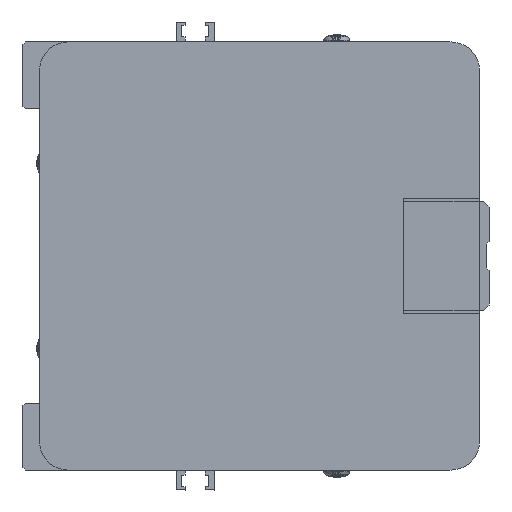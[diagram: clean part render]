
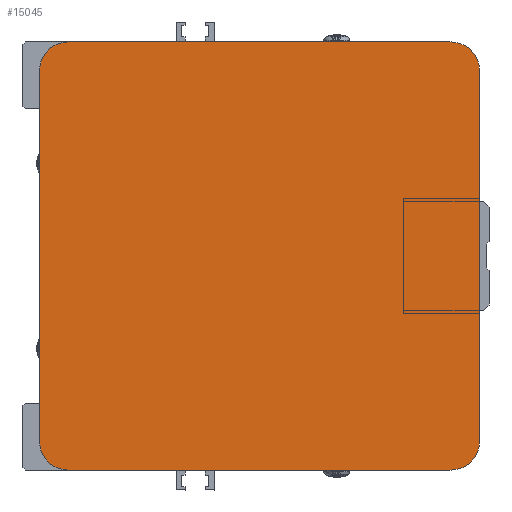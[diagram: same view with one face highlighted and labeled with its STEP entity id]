
A CAD part, left-side view. The second image highlights one B-rep face of the part: STEP entity #15045.
In plain terms, the highlighted planar face has unit normal (-1, 0, 0) as drawn and (0, 0, -1) by its records, which use the part's own axes.
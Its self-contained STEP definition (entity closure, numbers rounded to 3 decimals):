
#1189=CIRCLE('',#16041,6.);
#1191=CIRCLE('',#16046,6.);
#1192=CIRCLE('',#16052,6.);
#1193=CIRCLE('',#16054,6.);
#2094=FACE_OUTER_BOUND('',#2987,.T.);
#2987=EDGE_LOOP('',(#10521,#10522,#10523,#10524,#10525,#10526,#10527,#10528));
#4125=LINE('',#21566,#5370);
#4143=LINE('',#21605,#5388);
#4147=LINE('',#21617,#5392);
#4149=LINE('',#21624,#5394);
#5370=VECTOR('',#17629,78.);
#5388=VECTOR('',#17663,80.5);
#5392=VECTOR('',#17677,80.5);
#5394=VECTOR('',#17685,78.);
#6610=VERTEX_POINT('',#21560);
#6611=VERTEX_POINT('',#21564);
#6623=VERTEX_POINT('',#21602);
#6624=VERTEX_POINT('',#21604);
#6626=VERTEX_POINT('',#21613);
#6627=VERTEX_POINT('',#21615);
#6628=VERTEX_POINT('',#21619);
#6629=VERTEX_POINT('',#21623);
#8148=EDGE_CURVE('',#6611,#6610,#4125,.T.);
#8168=EDGE_CURVE('',#6623,#6624,#4143,.T.);
#8170=EDGE_CURVE('',#6624,#6611,#1189,.T.);
#8174=EDGE_CURVE('',#6627,#6626,#4147,.T.);
#8175=EDGE_CURVE('',#6626,#6628,#1191,.T.);
#8177=EDGE_CURVE('',#6628,#6629,#4149,.T.);
#8193=EDGE_CURVE('',#6629,#6623,#1192,.T.);
#8194=EDGE_CURVE('',#6610,#6627,#1193,.T.);
#10521=ORIENTED_EDGE('',*,*,#8175,.F.);
#10522=ORIENTED_EDGE('',*,*,#8174,.F.);
#10523=ORIENTED_EDGE('',*,*,#8194,.F.);
#10524=ORIENTED_EDGE('',*,*,#8148,.F.);
#10525=ORIENTED_EDGE('',*,*,#8170,.F.);
#10526=ORIENTED_EDGE('',*,*,#8168,.F.);
#10527=ORIENTED_EDGE('',*,*,#8193,.F.);
#10528=ORIENTED_EDGE('',*,*,#8177,.F.);
#14520=PLANE('',#16065);
#15045=ADVANCED_FACE('',(#2094),#14520,.T.);
#16041=AXIS2_PLACEMENT_3D('',#21608,#17667,#17668);
#16046=AXIS2_PLACEMENT_3D('',#21620,#17680,#17681);
#16052=AXIS2_PLACEMENT_3D('',#21652,#17709,#17710);
#16054=AXIS2_PLACEMENT_3D('',#21654,#17713,#17714);
#16065=AXIS2_PLACEMENT_3D('',#21673,#17740,#17741);
#17629=DIRECTION('',(1.,0.,0.));
#17663=DIRECTION('',(0.,-1.,0.));
#17667=DIRECTION('center_axis',(0.,0.,
1.));
#17668=DIRECTION('ref_axis',(-1.,0.,0.));
#17677=DIRECTION('',(0.,1.,0.));
#17680=DIRECTION('center_axis',(0.,0.,
1.));
#17681=DIRECTION('ref_axis',(1.,0.,0.));
#17685=DIRECTION('',(-1.,0.,0.));
#17709=DIRECTION('center_axis',(0.,0.,
1.));
#17710=DIRECTION('ref_axis',(0.,1.,0.));
#17713=DIRECTION('center_axis',(0.,0.,
1.));
#17714=DIRECTION('ref_axis',(0.,-1.,0.));
#17740=DIRECTION('center_axis',(0.,0.,
-1.));
#17741=DIRECTION('ref_axis',(0.545,-0.839,0.));
#21560=CARTESIAN_POINT('',(88.204,2.,-636.));
#21564=CARTESIAN_POINT('',(10.204,2.,-636.));
#21566=CARTESIAN_POINT('',(10.204,2.,-636.));
#21602=CARTESIAN_POINT('',(4.204,88.5,-636.));
#21604=CARTESIAN_POINT('',(4.204,8.,-636.));
#21605=CARTESIAN_POINT('',(4.204,88.5,-636.));
#21608=CARTESIAN_POINT('Origin',(10.204,8.,-636.));
#21613=CARTESIAN_POINT('',(94.204,88.5,-636.));
#21615=CARTESIAN_POINT('',(94.204,8.,-636.));
#21617=CARTESIAN_POINT('',(94.204,8.,-636.));
#21619=CARTESIAN_POINT('',(88.204,94.5,-636.));
#21620=CARTESIAN_POINT('Origin',(88.204,88.5,-636.));
#21623=CARTESIAN_POINT('',(10.204,94.5,-636.));
#21624=CARTESIAN_POINT('',(88.204,94.5,-636.));
#21652=CARTESIAN_POINT('Origin',(10.204,88.5,-636.));
#21654=CARTESIAN_POINT('Origin',(88.204,8.,-636.));
#21673=CARTESIAN_POINT('Origin',(49.204,26.,-636.));
